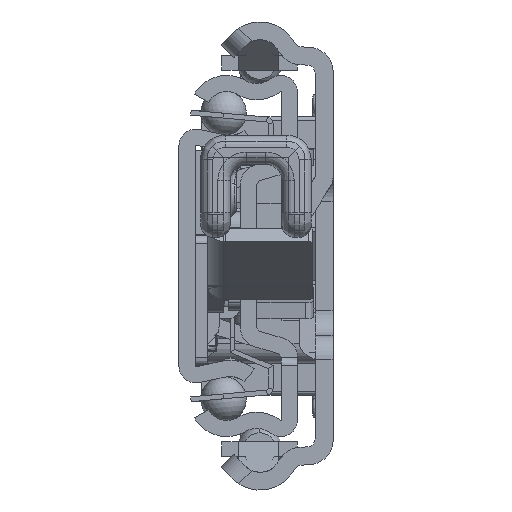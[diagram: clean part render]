
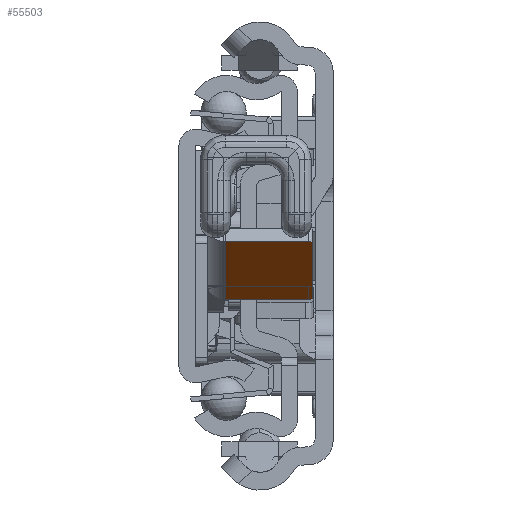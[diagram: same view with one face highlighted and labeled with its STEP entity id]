
A CAD part, left-side view. The second image highlights one B-rep face of the part: STEP entity #55503.
In plain terms, the highlighted planar face has unit normal (-0.597, 0, -0.802) as drawn and (-0.597, -0.802, 0) by its records, which use the part's own axes.
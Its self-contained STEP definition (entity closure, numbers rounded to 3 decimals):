
#54895=DIRECTION('',(0.802,-0.597,0.));
#54896=VECTOR('',#54895,12.);
#54897=CARTESIAN_POINT('',(31.957,-10.314,2.2));
#54898=LINE('',#54897,#54896);
#54923=CARTESIAN_POINT('',(41.184,-17.178,12.5));
#54924=DIRECTION('',(-0.597,-0.802,0.));
#54925=DIRECTION('',(0.802,-0.597,0.));
#54926=AXIS2_PLACEMENT_3D('',#54923,#54924,#54925);
#54928=DIRECTION('',(0.,0.,1.));
#54929=VECTOR('',#54928,10.3);
#54930=CARTESIAN_POINT('',(41.586,-17.476,2.2));
#54931=LINE('',#54930,#54929);
#54932=DIRECTION('',(0.,0.,-1.));
#54933=VECTOR('',#54932,10.3);
#54934=CARTESIAN_POINT('',(31.957,-10.314,12.5));
#54935=LINE('',#54934,#54933);
#54936=CARTESIAN_POINT('',(32.358,-10.613,12.5));
#54937=DIRECTION('',(-0.597,-0.802,0.));
#54938=DIRECTION('',(0.,0.,1.));
#54939=AXIS2_PLACEMENT_3D('',#54936,#54937,#54938);
#54941=DIRECTION('',(-0.802,0.597,0.));
#54942=VECTOR('',#54941,11.);
#54943=CARTESIAN_POINT('',(41.184,-17.178,13.));
#54944=LINE('',#54943,#54942);
#55157=CARTESIAN_POINT('',(31.957,-10.314,2.2));
#55158=CARTESIAN_POINT('',(41.586,-17.476,2.2));
#55159=VERTEX_POINT('',#55157);
#55160=VERTEX_POINT('',#55158);
#55189=CARTESIAN_POINT('',(41.586,-17.476,12.5));
#55190=CARTESIAN_POINT('',(41.184,-17.178,13.));
#55191=VERTEX_POINT('',#55189);
#55192=VERTEX_POINT('',#55190);
#55197=CARTESIAN_POINT('',(32.358,-10.613,13.));
#55198=CARTESIAN_POINT('',(31.957,-10.314,12.5));
#55199=VERTEX_POINT('',#55197);
#55200=VERTEX_POINT('',#55198);
#55485=CARTESIAN_POINT('',(34.726,-12.374,0.));
#55486=DIRECTION('',(-0.597,-0.802,0.));
#55487=DIRECTION('',(0.802,-0.597,0.));
#55488=AXIS2_PLACEMENT_3D('',#55485,#55486,#55487);
#55489=PLANE('',#55488);
#55491=ORIENTED_EDGE('',*,*,#55490,.F.);
#55493=ORIENTED_EDGE('',*,*,#55492,.F.);
#55494=ORIENTED_EDGE('',*,*,#55472,.F.);
#55496=ORIENTED_EDGE('',*,*,#55495,.F.);
#55498=ORIENTED_EDGE('',*,*,#55497,.F.);
#55500=ORIENTED_EDGE('',*,*,#55499,.F.);
#55501=EDGE_LOOP('',(#55491,#55493,#55494,#55496,#55498,#55500));
#55502=FACE_OUTER_BOUND('',#55501,.F.);
#54927=CIRCLE('',#54926,0.5);
#54940=CIRCLE('',#54939,0.5);
#55472=EDGE_CURVE('',#55159,#55160,#54898,.T.);
#55490=EDGE_CURVE('',#55191,#55192,#54927,.T.);
#55492=EDGE_CURVE('',#55160,#55191,#54931,.T.);
#55495=EDGE_CURVE('',#55200,#55159,#54935,.T.);
#55497=EDGE_CURVE('',#55199,#55200,#54940,.T.);
#55499=EDGE_CURVE('',#55192,#55199,#54944,.T.);
#55503=ADVANCED_FACE('',(#55502),#55489,.T.);
